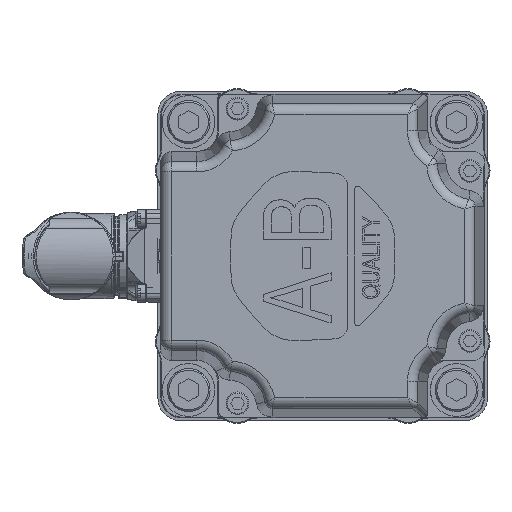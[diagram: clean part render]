
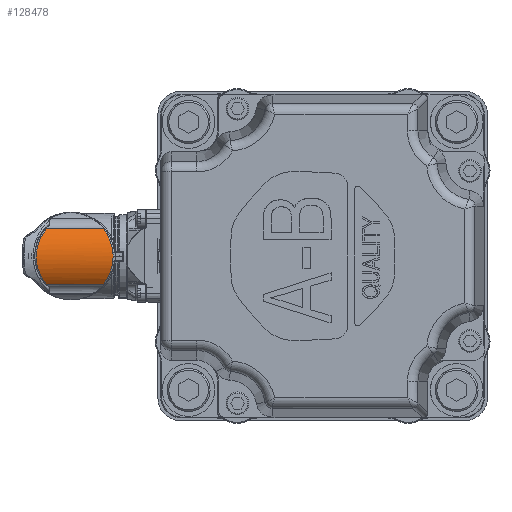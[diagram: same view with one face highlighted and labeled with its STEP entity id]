
A CAD part, left-side view. The second image highlights one B-rep face of the part: STEP entity #128478.
In plain terms, the highlighted cylindrical face has radius 13.2 mm (diameter 26.4 mm), a partial arc.
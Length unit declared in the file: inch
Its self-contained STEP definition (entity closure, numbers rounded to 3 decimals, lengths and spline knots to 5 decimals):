
#105150=DIRECTION('',(1.,-0.004,0.));
#105151=VECTOR('',#105150,0.6783);
#105152=CARTESIAN_POINT('',(-0.3851,0.47563,
-0.33768));
#105153=LINE('',#105152,#105151);
#105157=CARTESIAN_POINT('',(-0.49757,0.60011,
0.04537));
#105158=CARTESIAN_POINT('',(-0.49738,0.59994,
0.04732));
#105159=CARTESIAN_POINT('',(-0.49712,0.59973,
0.04969));
#105160=CARTESIAN_POINT('',(-0.49688,0.5995,
0.05205));
#105161=CARTESIAN_POINT('',(-0.49684,0.59946,
0.05247));
#105166=CARTESIAN_POINT('',(-0.49685,0.59763,
-0.06563));
#105167=CARTESIAN_POINT('',(-0.49711,0.59794,
-0.06327));
#105168=CARTESIAN_POINT('',(-0.49735,0.59823,
-0.06091));
#105169=CARTESIAN_POINT('',(-0.49758,0.59851,
-0.05855));
#105174=CARTESIAN_POINT('',(-0.3851,0.47563,
-0.33768));
#105175=CARTESIAN_POINT('',(-0.38596,0.47655,
-0.33661));
#105176=CARTESIAN_POINT('',(-0.39597,0.48735,
-0.32401));
#105177=CARTESIAN_POINT('',(-0.41445,0.50719,
-0.29854));
#105178=CARTESIAN_POINT('',(-0.43845,0.53315,
-0.25813));
#105179=CARTESIAN_POINT('',(-0.45926,0.55574,
-0.21445));
#105180=CARTESIAN_POINT('',(-0.48219,0.58087,
-0.1518));
#105181=CARTESIAN_POINT('',(-0.49304,0.59308,
-0.10054));
#105182=CARTESIAN_POINT('',(-0.49685,0.59763,
-0.06563));
#105187=CARTESIAN_POINT('',(0.29324,0.48295,
0.32814));
#105188=CARTESIAN_POINT('',(0.29468,0.48426,
0.32652));
#105189=CARTESIAN_POINT('',(0.31028,0.49849,
0.30862));
#105190=CARTESIAN_POINT('',(0.32811,0.51506,
0.28476));
#105191=CARTESIAN_POINT('',(0.35175,0.53731,
0.24643));
#105192=CARTESIAN_POINT('',(0.36797,0.55271,
0.21556));
#105193=CARTESIAN_POINT('',(0.38403,0.568,
0.177));
#105194=CARTESIAN_POINT('',(0.39369,0.57718,
0.1482));
#105195=CARTESIAN_POINT('',(0.40351,0.58644,
0.1128));
#105196=CARTESIAN_POINT('',(0.41184,0.59418,
0.07172));
#105197=CARTESIAN_POINT('',(0.41696,0.59852,
0.01871));
#105198=CARTESIAN_POINT('',(0.41695,0.59793,
-0.01931));
#105199=CARTESIAN_POINT('',(0.41491,0.59535,
-0.05313));
#105200=CARTESIAN_POINT('',(0.41215,0.59218,
-0.07835));
#105201=CARTESIAN_POINT('',(0.40718,0.58674,
-0.10726));
#105202=CARTESIAN_POINT('',(0.39645,0.57524,
-0.1556));
#105203=CARTESIAN_POINT('',(0.38202,0.56023,
-0.19617));
#105204=CARTESIAN_POINT('',(0.36368,0.5416,
-0.23472));
#105205=CARTESIAN_POINT('',(0.35305,0.53088,
-0.25511));
#105206=CARTESIAN_POINT('',(0.33134,0.50927,
-0.29103));
#105207=CARTESIAN_POINT('',(0.31024,0.4888,
-0.31864));
#105208=CARTESIAN_POINT('',(0.29464,0.47403,
-0.33609));
#105209=CARTESIAN_POINT('',(0.29319,0.47267,
-0.33768));
#105214=CARTESIAN_POINT('',(-0.49684,0.59946,
0.05247));
#105215=CARTESIAN_POINT('',(-0.49495,0.59774,
0.06974));
#105216=CARTESIAN_POINT('',(-0.48949,0.59253,
0.10434));
#105217=CARTESIAN_POINT('',(-0.47653,0.57967,
0.15463));
#105218=CARTESIAN_POINT('',(-0.45936,0.56231,
0.2022));
#105219=CARTESIAN_POINT('',(-0.43844,0.54096,
0.24687));
#105220=CARTESIAN_POINT('',(-0.41443,0.51628,
0.28799));
#105221=CARTESIAN_POINT('',(-0.39601,0.49728,
0.31405));
#105222=CARTESIAN_POINT('',(-0.38595,0.48684,
0.327));
#105223=CARTESIAN_POINT('',(-0.38506,0.48591,
0.32815));
#105228=CARTESIAN_POINT('',(-0.49757,0.60011,
0.04537));
#105581=CARTESIAN_POINT('',(-0.38506,0.48591,
0.32815));
#119651=CARTESIAN_POINT('',(0.29324,0.48295,
0.32814));
#119656=DIRECTION('',(-1.,0.004,0.));
#119657=VECTOR('',#119656,0.6783);
#119658=CARTESIAN_POINT('',(0.29324,0.48295,
0.32814));
#119659=LINE('',#119658,#119657);
#119667=CARTESIAN_POINT('',(0.29319,0.47267,
-0.33768));
#120739=CARTESIAN_POINT('',(-0.3851,0.47563,
-0.33768));
#120778=CARTESIAN_POINT('',(-0.49999,0.60197,
0.00145));
#120779=CARTESIAN_POINT('',(-0.50009,0.60198,
-0.00523));
#120780=CARTESIAN_POINT('',(-0.50004,0.60171,
-0.01859));
#120781=CARTESIAN_POINT('',(-0.49924,0.60056,
-0.03862));
#120782=CARTESIAN_POINT('',(-0.49821,0.59927,
-0.05192));
#120783=CARTESIAN_POINT('',(-0.49758,0.59851,
-0.05855));
#120811=CARTESIAN_POINT('',(-0.49757,0.60011,
0.04537));
#120812=CARTESIAN_POINT('',(-0.49803,0.60052,
0.0405));
#120813=CARTESIAN_POINT('',(-0.49884,0.60121,
0.03076));
#120814=CARTESIAN_POINT('',(-0.49964,0.60183,
0.0161));
#120815=CARTESIAN_POINT('',(-0.49992,0.60197,
0.00633));
#120816=CARTESIAN_POINT('',(-0.49999,0.60197,
0.00145));
#124250=VERTEX_POINT('',#119667);
#124265=VERTEX_POINT('',#120739);
#124474=VERTEX_POINT('',#105228);
#124508=VERTEX_POINT('',#105581);
#124509=VERTEX_POINT('',#105166);
#124510=VERTEX_POINT('',#105169);
#124804=CARTESIAN_POINT('',(-0.49999,0.60197,
0.00145));
#124805=VERTEX_POINT('',#124804);
#124901=VERTEX_POINT('',#105161);
#125035=VERTEX_POINT('',#119651);
#128454=CARTESIAN_POINT('',(-0.00036,0.08011,
0.0014));
#128455=DIRECTION('',(-1.,0.004,0.));
#128456=DIRECTION('',(-0.004,-1.,0.));
#128457=AXIS2_PLACEMENT_3D('',#128454,#128455,#128456);
#128458=CYLINDRICAL_SURFACE('',#128457,0.51969);
#128460=ORIENTED_EDGE('',*,*,#128459,.F.);
#128462=ORIENTED_EDGE('',*,*,#128461,.T.);
#128464=ORIENTED_EDGE('',*,*,#128463,.T.);
#128466=ORIENTED_EDGE('',*,*,#128465,.F.);
#128468=ORIENTED_EDGE('',*,*,#128467,.F.);
#128469=ORIENTED_EDGE('',*,*,#128442,.T.);
#128471=ORIENTED_EDGE('',*,*,#128470,.F.);
#128473=ORIENTED_EDGE('',*,*,#128472,.T.);
#128475=ORIENTED_EDGE('',*,*,#128474,.F.);
#128476=EDGE_LOOP('',(#128460,#128462,#128464,#128466,#128468,#128469,#128471,
#128473,#128475));
#128477=FACE_OUTER_BOUND('',#128476,.F.);
#128478=ADVANCED_FACE('',(#128477),#128458,.T.);
#105162=B_SPLINE_CURVE_WITH_KNOTS('',3,(#105157,#105158,#105159,#105160,
#105161),.UNSPECIFIED.,.F.,.F.,(4,1,4),(0.,0.82383,1.),
.UNSPECIFIED.);
#105170=B_SPLINE_CURVE_WITH_KNOTS('',3,(#105166,#105167,#105168,#105169),
.UNSPECIFIED.,.F.,.F.,(4,4),(0.,1.),.UNSPECIFIED.);
#105183=B_SPLINE_CURVE_WITH_KNOTS('',3,(#105174,#105175,#105176,#105177,#105178,
#105179,#105180,#105181,#105182),.UNSPECIFIED.,.F.,.F.,(4,1,1,1,1,1,4),(0.,
0.01535,0.17998,0.34462,0.50926,
0.6739,1.),.UNSPECIFIED.);
#105210=B_SPLINE_CURVE_WITH_KNOTS('',3,(#105187,#105188,#105189,#105190,#105191,
#105192,#105193,#105194,#105195,#105196,#105197,#105198,#105199,#105200,#105201,
#105202,#105203,#105204,#105205,#105206,#105207,#105208,#105209),.UNSPECIFIED.,
.F.,.F.,(4,1,1,1,1,1,1,1,1,1,1,1,1,1,1,1,1,1,1,1,4),(0.,0.00988,
0.1079,0.13241,0.20592,0.25493,
0.30395,0.32845,0.40197,0.46732,
0.53267,0.549,0.59802,0.63069,
0.66336,0.79406,0.80631,0.84307,
0.89209,0.99011,1.),.UNSPECIFIED.);
#105224=B_SPLINE_CURVE_WITH_KNOTS('',3,(#105214,#105215,#105216,#105217,#105218,
#105219,#105220,#105221,#105222,#105223),.UNSPECIFIED.,.F.,.F.,(4,1,1,1,1,1,1,
4),(0.,0.16077,0.32541,0.49006,
0.6547,0.81935,0.98399,1.),.UNSPECIFIED.);
#120784=B_SPLINE_CURVE_WITH_KNOTS('',3,(#120778,#120779,#120780,#120781,#120782,
#120783),.UNSPECIFIED.,.F.,.F.,(4,1,1,4),(0.,0.33333,
0.66667,1.),.UNSPECIFIED.);
#120817=B_SPLINE_CURVE_WITH_KNOTS('',3,(#120811,#120812,#120813,#120814,#120815,
#120816),.UNSPECIFIED.,.F.,.F.,(4,1,1,4),(0.,0.33333,
0.66667,1.),.UNSPECIFIED.);
#128442=EDGE_CURVE('',#124265,#124250,#105153,.T.);
#128459=EDGE_CURVE('',#124474,#124901,#105162,.T.);
#128461=EDGE_CURVE('',#124474,#124805,#120817,.T.);
#128463=EDGE_CURVE('',#124805,#124510,#120784,.T.);
#128465=EDGE_CURVE('',#124509,#124510,#105170,.T.);
#128467=EDGE_CURVE('',#124265,#124509,#105183,.T.);
#128470=EDGE_CURVE('',#125035,#124250,#105210,.T.);
#128472=EDGE_CURVE('',#125035,#124508,#119659,.T.);
#128474=EDGE_CURVE('',#124901,#124508,#105224,.T.);
